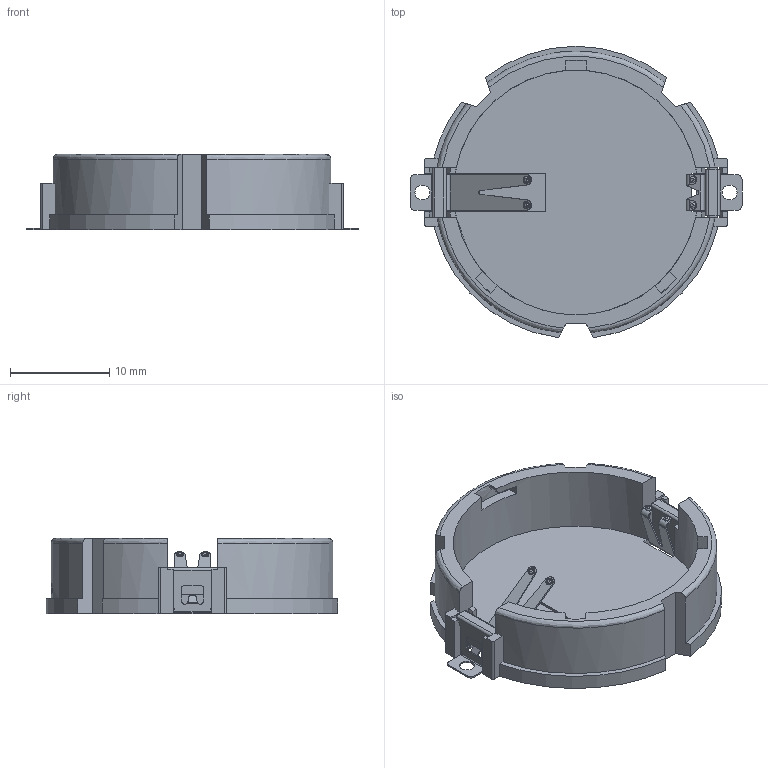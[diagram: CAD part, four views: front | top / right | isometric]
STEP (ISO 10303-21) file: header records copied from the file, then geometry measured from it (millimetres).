
FILE_DESCRIPTION (( 'STEP AP214' ), '1' );
FILE_NAME ('BAT-SMD_BS-2404-SK-4W.STEP', '2025-03-18T09:23:05', ( '' ), ( '' ), 'SwSTEP 2.0', 'SolidWorks 2020', '' );
FILE_SCHEMA (( 'AUTOMOTIVE_DESIGN' ));
Length unit declared in the file: millimetre
Products named in the file (1): BAT-SMD_BS-2404-SK-4W
Bounding box: 33.5 x 29.4 x 7.6 mm (x, y, z)
Volume: 1535.4 mm3; surface area: 2907.6 mm2
Topology: 1 solids, 1 shells, 533 faces, 1508 edges, 988 vertices
Faces by surface type: plane 266, bspline 132, cylinder 115, torus 20
Entity records: 24687 total; most frequent: CARTESIAN_POINT 5891, ORIENTED_EDGE 3016, DIRECTION 2219, EDGE_CURVE 1508, VERTEX_POINT 988, AXIS2_PLACEMENT_3D 752, LINE 715, VECTOR 715
